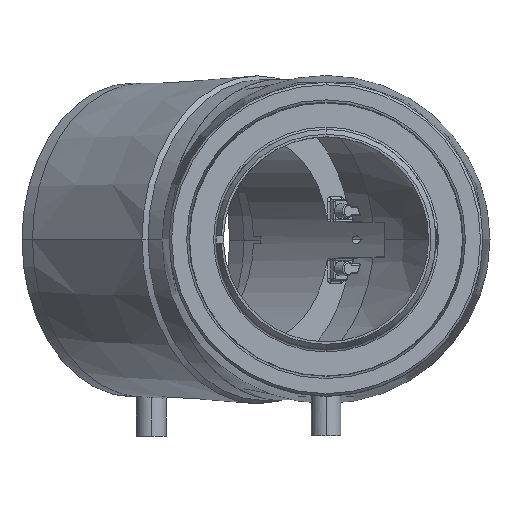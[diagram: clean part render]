
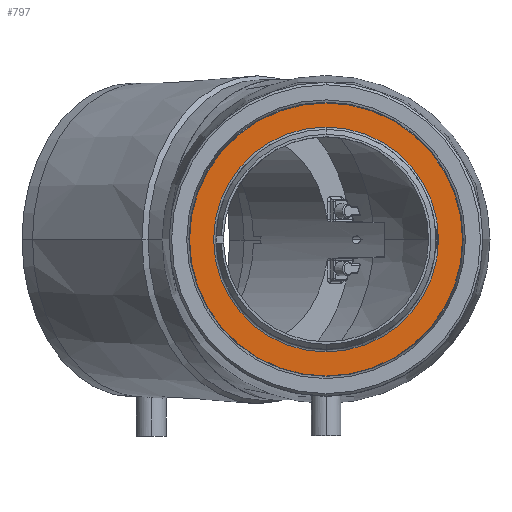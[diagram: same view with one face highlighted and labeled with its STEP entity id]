
A CAD part, top view. The second image highlights one B-rep face of the part: STEP entity #797.
In plain terms, the highlighted planar face has unit normal (0, 0, 1).
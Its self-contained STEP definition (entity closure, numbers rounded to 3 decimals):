
#797 = ADVANCED_FACE ( 'NONE', ( #4473, #4475 ), #4477, .T. ) ;
#945 = AXIS2_PLACEMENT_3D ( 'NONE', #4459, #4481, #4483 ) ;
#1652 = VERTEX_POINT ( 'NONE', #6943 ) ;
#1656 = VERTEX_POINT ( 'NONE', #6947 ) ;
#1661 = VERTEX_POINT ( 'NONE', #6952 ) ;
#1709 = VERTEX_POINT ( 'NONE', #7000 ) ;
#1848 = CARTESIAN_POINT ( 'NONE',  ( -23.013, 32.694, 32.932 ) ) ;
#1849 = DIRECTION ( 'NONE',  ( 0., 0., 1. ) ) ;
#1850 = DIRECTION ( 'NONE',  ( 0., 1., 0. ) ) ;
#3032 = EDGE_CURVE ( 'NONE', #1656, #1709, #3355, .T. ) ;
#3061 = EDGE_CURVE ( 'NONE', #1652, #1661, #3147, .T. ) ;
#3147 = CIRCLE ( 'NONE', #3150, 55.25 ) ;
#3150 = AXIS2_PLACEMENT_3D ( 'NONE', #1848, #1849, #1850 ) ;
#3345 = EDGE_CURVE ( 'NONE', #1709, #1656, #3733, .T. ) ;
#3346 = EDGE_CURVE ( 'NONE', #1661, #1652, #3726, .T. ) ;
#3355 = CIRCLE ( 'NONE', #3357, 45.5 ) ;
#3357 = AXIS2_PLACEMENT_3D ( 'NONE', #7317, #7318, #7319 ) ;
#3726 = CIRCLE ( 'NONE', #3736, 55.25 ) ;
#3733 = CIRCLE ( 'NONE', #3734, 45.5 ) ;
#3734 = AXIS2_PLACEMENT_3D ( 'NONE', #9851, #9852, #9853 ) ;
#3736 = AXIS2_PLACEMENT_3D ( 'NONE', #9854, #9855, #9856 ) ;
#4459 = CARTESIAN_POINT ( 'NONE',  ( -23.013, 32.694, 32.932 ) ) ;
#4473 = FACE_BOUND ( 'NONE', #11683, .T. ) ;
#4475 = FACE_OUTER_BOUND ( 'NONE', #11672, .T. ) ;
#4477 = PLANE ( 'NONE',  #945 ) ;
#4481 = DIRECTION ( 'NONE',  ( 0., 0., 1. ) ) ;
#4483 = DIRECTION ( 'NONE',  ( 0., 1., 0. ) ) ;
#6943 = CARTESIAN_POINT ( 'NONE',  ( -23.013, 87.944, 32.932 ) ) ;
#6947 = CARTESIAN_POINT ( 'NONE',  ( -23.013, 78.194, 32.932 ) ) ;
#6952 = CARTESIAN_POINT ( 'NONE',  ( -23.013, -22.556, 32.932 ) ) ;
#7000 = CARTESIAN_POINT ( 'NONE',  ( -23.013, -12.806, 32.932 ) ) ;
#7317 = CARTESIAN_POINT ( 'NONE',  ( -23.013, 32.694, 32.932 ) ) ;
#7318 = DIRECTION ( 'NONE',  ( 0., 0., -1. ) ) ;
#7319 = DIRECTION ( 'NONE',  ( 0., 1., 0. ) ) ;
#9851 = CARTESIAN_POINT ( 'NONE',  ( -23.013, 32.694, 32.932 ) ) ;
#9852 = DIRECTION ( 'NONE',  ( 0., 0., -1. ) ) ;
#9853 = DIRECTION ( 'NONE',  ( 0., 1., 0. ) ) ;
#9854 = CARTESIAN_POINT ( 'NONE',  ( -23.013, 32.694, 32.932 ) ) ;
#9855 = DIRECTION ( 'NONE',  ( 0., 0., 1. ) ) ;
#9856 = DIRECTION ( 'NONE',  ( 0., 1., 0. ) ) ;
#11672 = EDGE_LOOP ( 'NONE', ( #11792, #11793 ) ) ;
#11683 = EDGE_LOOP ( 'NONE', ( #11790, #11791 ) ) ;
#11790 = ORIENTED_EDGE ( 'NONE', *, *, #3032, .T. ) ;
#11791 = ORIENTED_EDGE ( 'NONE', *, *, #3345, .T. ) ;
#11792 = ORIENTED_EDGE ( 'NONE', *, *, #3346, .T. ) ;
#11793 = ORIENTED_EDGE ( 'NONE', *, *, #3061, .T. ) ;
